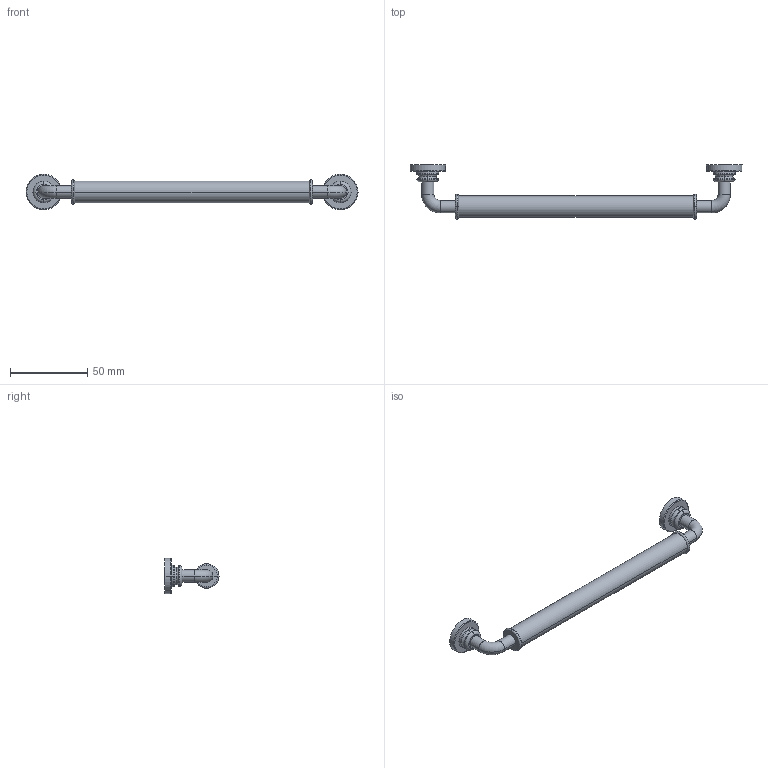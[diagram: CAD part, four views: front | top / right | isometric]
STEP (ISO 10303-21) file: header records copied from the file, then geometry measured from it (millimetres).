
FILE_DESCRIPTION( ( '' ), '1' );
FILE_NAME( 'D:/1.AUTOCAD EXPORT/Group 10/sheet_10_1/9132270.stp', '2013-10-21T06:34:09', ( '' ), ( '' ), ' ', ' ', ' ' );
FILE_SCHEMA( ( 'automotive_design' ) );
Length unit declared in the file: millimetre
Products named in the file (1): 1
Bounding box: 215 x 35 x 23 mm (x, y, z)
Volume: 32034.4 mm3; surface area: 11712.9 mm2
Topology: 1 solids, 1 shells, 95 faces, 230 edges, 141 vertices
Faces by surface type: torus 40, cone 24, cylinder 22, plane 9
Entity records: 5557 total; most frequent: DIRECTION 598, CARTESIAN_POINT 545, STYLED_ITEM 467, PRESENTATION_STYLE_ASSIGNMENT 467, COLOUR_RGB 467, ORIENTED_EDGE 460, AXIS2_PLACEMENT_3D 276, EDGE_CURVE 230
